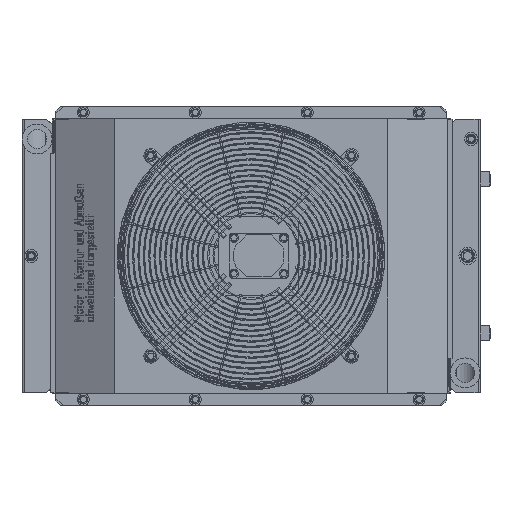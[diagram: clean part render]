
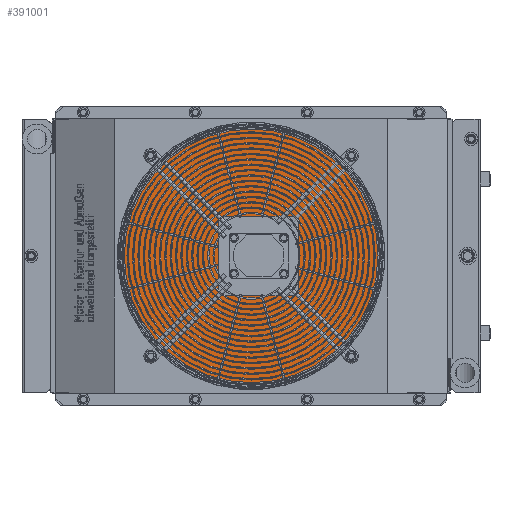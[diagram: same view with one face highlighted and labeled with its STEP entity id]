
A CAD part, top view. The second image highlights one B-rep face of the part: STEP entity #391001.
In plain terms, the highlighted planar face has unit normal (0, 0, 1).
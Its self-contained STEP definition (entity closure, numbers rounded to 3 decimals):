
#388671=CARTESIAN_POINT(' ',(394.247,541.99,47.));
#388672=VERTEX_POINT(' ',#388671);
#389026=CARTESIAN_POINT(' ',(-394.247,541.99,47.));
#389027=VERTEX_POINT(' ',#389026);
#389041=CARTESIAN_POINT(' ',(394.247,541.99,47.));
#389046=DIRECTION(' ',(-1.,0.,0.));
#389051=VECTOR(' ',#389046,1.);
#389056=LINE(' ',#389041,#389051);
#389061=EDGE_CURVE(' ',#388672,#389027,#389056,.T.);
#389196=CARTESIAN_POINT(' ',(394.247,541.99,47.));
#389201=DIRECTION(' ',(0.,-1.,0.));
#389206=VECTOR(' ',#389201,1.);
#389211=LINE(' ',#389196,#389206);
#389216=CARTESIAN_POINT(' ',(394.247,0.,47.));
#389217=VERTEX_POINT(' ',#389216);
#389221=EDGE_CURVE(' ',#388672,#389217,#389211,.T.);
#390786=CARTESIAN_POINT(' ',(-394.247,541.99,47.));
#390791=DIRECTION(' ',(0.,-1.,0.));
#390796=VECTOR(' ',#390791,1.);
#390801=LINE(' ',#390786,#390796);
#390806=CARTESIAN_POINT(' ',(-394.247,0.,47.));
#390807=VERTEX_POINT(' ',#390806);
#390811=EDGE_CURVE(' ',#389027,#390807,#390801,.T.);
#390921=CARTESIAN_POINT(' ',(-394.247,0.,47.));
#390926=DIRECTION(' ',(0.,0.,1.));
#390931=DIRECTION(' ',(1.,0.,0.));
#390936=AXIS2_PLACEMENT_3D(' ',#390921,#390926,#390931);
#390941=PLANE(' ',#390936);
#390946=ORIENTED_EDGE(' ',*,*,#389221,.F.);
#390951=ORIENTED_EDGE(' ',*,*,#389061,.T.);
#390956=ORIENTED_EDGE(' ',*,*,#390811,.T.);
#390961=CARTESIAN_POINT(' ',(394.247,0.,47.));
#390966=DIRECTION(' ',(-1.,0.,0.));
#390971=VECTOR(' ',#390966,1.);
#390976=LINE(' ',#390961,#390971);
#390981=EDGE_CURVE(' ',#389217,#390807,#390976,.T.);
#390986=ORIENTED_EDGE(' ',*,*,#390981,.F.);
#390991=EDGE_LOOP(' ',(#390946,#390951,#390956,#390986));
#390996=FACE_OUTER_BOUND(' ',#390991,.T.);
#391001=ADVANCED_FACE(' ',(#390996),#390941,.T.);
